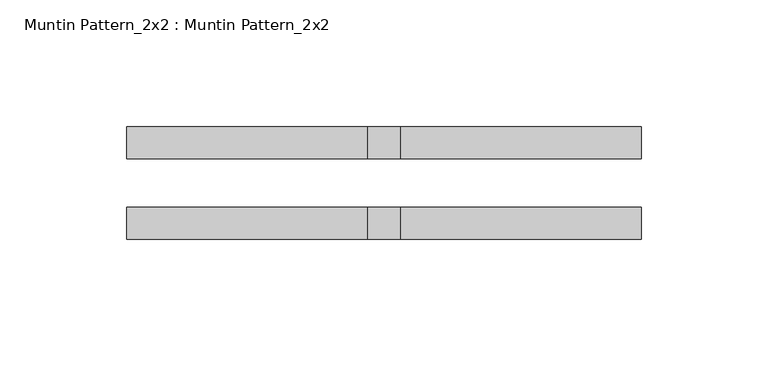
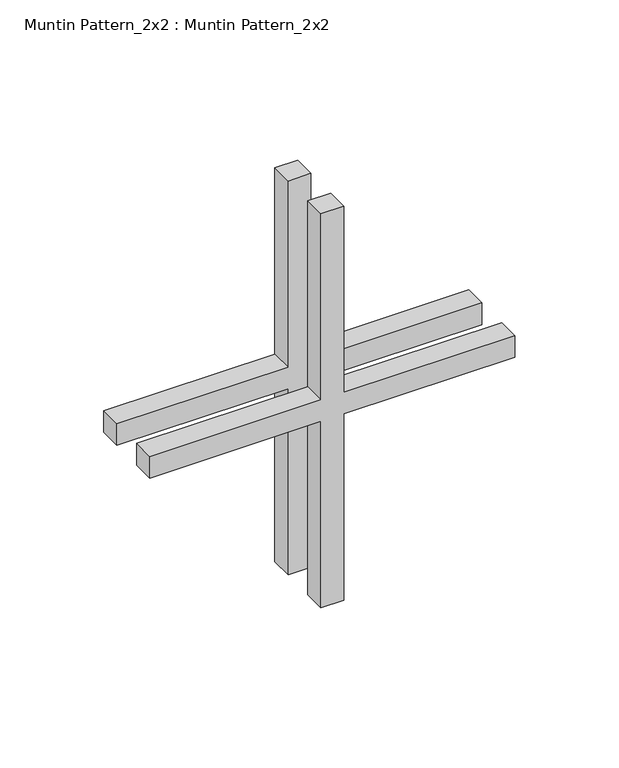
"""IFC4 building model written with IfcOpenShell, lengths in millimetres: proxy geometry, Muntin Pattern_2x2 : Muntin Pattern_2x2."""

from ifc_helpers import new_model, si_unit, frame, origin, place, context, project, spatial, polyline, outline, extrude, source, transform, mapped, element, save


def muntin_pattern_2x2_muntin_pattern_2x2_4ad91a20(model_context):
    return source(origin(), model_context, "Body", "SweptSolid", [
        extrude(outline(polyline([(122.2375, -6.35), (122.2375, -101.6), (109.5375, -101.6), (109.5375, -6.35), (0.0, -6.35), (0.0, 6.35), (109.5375, 6.35), (109.5375, 101.6), (122.2375, 101.6), (122.2375, 6.35), (231.775, 6.35), (231.775, -6.35), (122.2375, -6.35)])), frame((0.0, 9.525, 0.0), z_axis=(0.0, 1.0, 0.0), x_axis=(0.0, 0.0, 1.0)), (0.0, 0.0, 1.0), 12.7),
        extrude(outline(polyline([(122.2375, -6.35), (122.2375, -101.6), (109.5375, -101.6), (109.5375, -6.35), (0.0, -6.35), (0.0, 6.35), (109.5375, 6.35), (109.5375, 101.6), (122.2375, 101.6), (122.2375, 6.35), (231.775, 6.35), (231.775, -6.35), (122.2375, -6.35)])), frame((0.0, -22.225, 0.0), z_axis=(0.0, 1.0, 0.0), x_axis=(0.0, 0.0, 1.0)), (0.0, 0.0, 1.0), 12.7),
    ])


if __name__ == "__main__":
    model = new_model("IFC4")
    model_context = context("Model", 3, world=origin())
    ifc_project = project(units=[si_unit("LENGTHUNIT", "METRE", prefix="MILLI")], contexts=[model_context])
    site = spatial("IfcSite", under=ifc_project)
    building = spatial("IfcBuilding", under=site)
    placement = place(None, origin())
    muntin_pattern_2x2_muntin_pattern_2x2_shape = muntin_pattern_2x2_muntin_pattern_2x2_4ad91a20(model_context)
    element("IfcBuildingElementProxy", 1, Name="Muntin Pattern_2x2 : Muntin Pattern_2x2", ObjectType="Muntin Pattern_2x2 : Muntin Pattern_2x2", at=placement, inside=building, context=model_context, shape_type="MappedRepresentation", body=[
        mapped(muntin_pattern_2x2_muntin_pattern_2x2_shape, transform((0.0, 0.0, 0.0), x_axis=(1.0, 0.0, 0.0), y_axis=(0.0, 1.0, 0.0), z_axis=(0.0, 0.0, 1.0))),
    ])
    save(model, "model.ifc")
